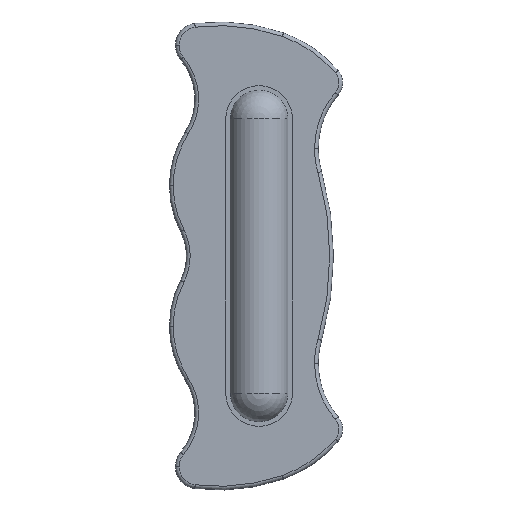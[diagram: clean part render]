
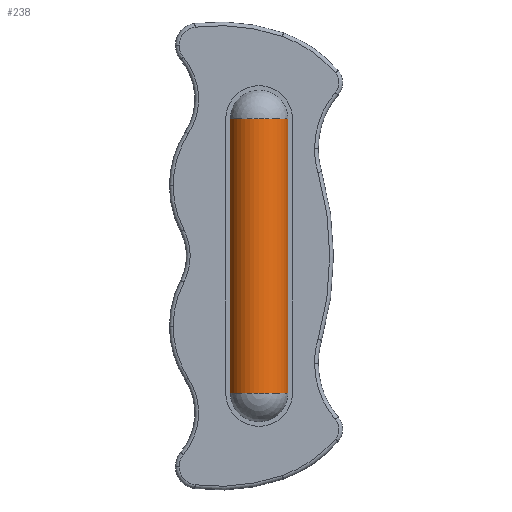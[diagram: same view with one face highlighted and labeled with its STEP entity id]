
A CAD part, top view. The second image highlights one B-rep face of the part: STEP entity #238.
In plain terms, the highlighted cylindrical face has radius 6.35 mm (diameter 12.7 mm), a partial arc.
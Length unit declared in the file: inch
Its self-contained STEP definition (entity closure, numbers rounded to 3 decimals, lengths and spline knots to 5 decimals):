
#93 = CIRCLE ( 'NONE', #1045, 0.25 ) ;
#199 = AXIS2_PLACEMENT_3D ( 'NONE', #702, #1066, #829 ) ;
#238 = ADVANCED_FACE ( 'NONE', ( #554 ), #281, .T. ) ;
#281 = CYLINDRICAL_SURFACE ( 'NONE', #1503, 0.25 ) ;
#375 = CARTESIAN_POINT ( 'NONE',  ( 3.27849, 1.68119, 0.0625 ) ) ;
#385 = DIRECTION ( 'NONE',  ( 0., 1., 0. ) ) ;
#452 = ORIENTED_EDGE ( 'NONE', *, *, #1399, .F. ) ;
#454 = DIRECTION ( 'NONE',  ( 0., -1., 0. ) ) ;
#510 = CIRCLE ( 'NONE', #199, 0.25 ) ;
#529 = CARTESIAN_POINT ( 'NONE',  ( 3.52055, 1.43119, 0. ) ) ;
#554 = FACE_OUTER_BOUND ( 'NONE', #1154, .T. ) ;
#562 = VERTEX_POINT ( 'NONE', #589 ) ;
#589 = CARTESIAN_POINT ( 'NONE',  ( 3.27849, -0.88131, 0.0625 ) ) ;
#662 = CARTESIAN_POINT ( 'NONE',  ( 3.76261, 1.43119, 0.0625 ) ) ;
#669 = VERTEX_POINT ( 'NONE', #662 ) ;
#702 = CARTESIAN_POINT ( 'NONE',  ( 3.52055, -0.88131, 0. ) ) ;
#737 = LINE ( 'NONE', #1117, #817 ) ;
#817 = VECTOR ( 'NONE', #1111, 39.37008 ) ;
#826 = CARTESIAN_POINT ( 'NONE',  ( 3.52055, 1.68119, 0. ) ) ;
#829 = DIRECTION ( 'NONE',  ( -1., 0., 0. ) ) ;
#895 = LINE ( 'NONE', #375, #1491 ) ;
#976 = EDGE_CURVE ( 'NONE', #1305, #669, #737, .T. ) ;
#1017 = DIRECTION ( 'NONE',  ( -1., 0., 0. ) ) ;
#1045 = AXIS2_PLACEMENT_3D ( 'NONE', #529, #385, #1017 ) ;
#1066 = DIRECTION ( 'NONE',  ( 0., 1., 0. ) ) ;
#1073 = VERTEX_POINT ( 'NONE', #1383 ) ;
#1111 = DIRECTION ( 'NONE',  ( 0., 1., 0. ) ) ;
#1117 = CARTESIAN_POINT ( 'NONE',  ( 3.76261, 1.68119, 0.0625 ) ) ;
#1154 = EDGE_LOOP ( 'NONE', ( #1245, #1195, #452, #1284 ) ) ;
#1187 = EDGE_CURVE ( 'NONE', #562, #1305, #510, .T. ) ;
#1195 = ORIENTED_EDGE ( 'NONE', *, *, #976, .T. ) ;
#1201 = CARTESIAN_POINT ( 'NONE',  ( 3.76261, -0.88131, 0.0625 ) ) ;
#1237 = DIRECTION ( 'NONE',  ( 0., 1., 0. ) ) ;
#1245 = ORIENTED_EDGE ( 'NONE', *, *, #1187, .T. ) ;
#1284 = ORIENTED_EDGE ( 'NONE', *, *, #1514, .T. ) ;
#1305 = VERTEX_POINT ( 'NONE', #1201 ) ;
#1383 = CARTESIAN_POINT ( 'NONE',  ( 3.27849, 1.43119, 0.0625 ) ) ;
#1399 = EDGE_CURVE ( 'NONE', #1073, #669, #93, .T. ) ;
#1491 = VECTOR ( 'NONE', #454, 39.37008 ) ;
#1502 = DIRECTION ( 'NONE',  ( -1., 0., 0. ) ) ;
#1503 = AXIS2_PLACEMENT_3D ( 'NONE', #826, #1237, #1502 ) ;
#1514 = EDGE_CURVE ( 'NONE', #1073, #562, #895, .T. ) ;
